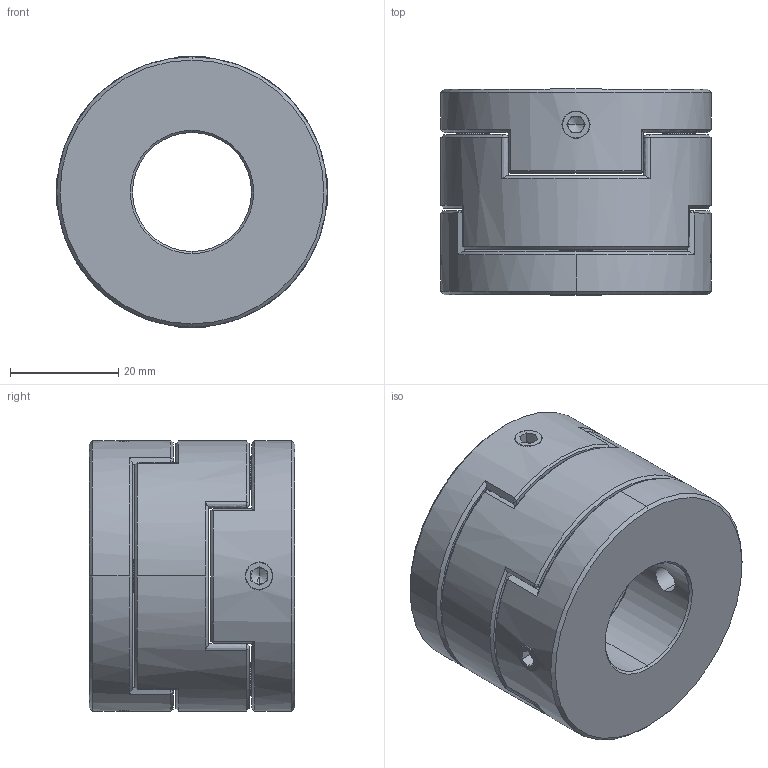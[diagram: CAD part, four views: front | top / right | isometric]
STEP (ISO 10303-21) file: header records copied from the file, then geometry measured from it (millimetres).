
FILE_DESCRIPTION (( 'STEP AP203' ), '1' );
FILE_NAME ('LZ-D-D50L38-22-22.STEP', '2021-10-30T06:06:14', ( '' ), ( '' ), 'SwSTEP 2.0', 'SolidWorks 2018', '' );
FILE_SCHEMA (( 'CONFIG_CONTROL_DESIGN' ));
Length unit declared in the file: millimetre
Products named in the file (1): LZ-D-D50L38-22-22
Bounding box: 50 x 38 x 50 mm (x, y, z)
Volume: 57443.2 mm3; surface area: 18169.8 mm2
Topology: 1 solids, 1 shells, 222 faces, 546 edges, 326 vertices
Faces by surface type: plane 88, bspline 54, cone 54, cylinder 26
Entity records: 7514 total; most frequent: CARTESIAN_POINT 2752, ORIENTED_EDGE 1076, DIRECTION 798, EDGE_CURVE 538, VERTEX_POINT 326, AXIS2_PLACEMENT_3D 289, EDGE_LOOP 248, FACE_OUTER_BOUND 222
